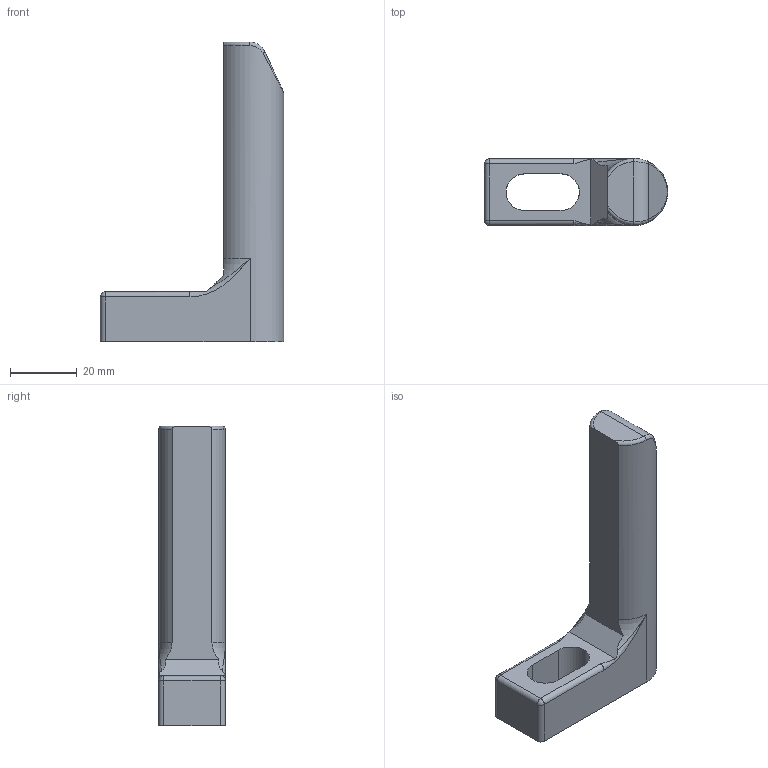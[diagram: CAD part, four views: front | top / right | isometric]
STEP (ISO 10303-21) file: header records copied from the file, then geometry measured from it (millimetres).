
FILE_DESCRIPTION(('CATIA V5 STEP Exchange'),'2;1');
FILE_NAME('C:\Users\Utente\Desktop\IO LAVORO\3D X SITO CF\X SITO\704\704-3.stp','2020-11-29T12:23:15+00:00',('none'),('none'),'CATIA Version 5 Release 20 GA (IN-10)','CATIA V5 STEP AP203','none');
FILE_SCHEMA(('CONFIG_CONTROL_DESIGN'));
Length unit declared in the file: millimetre
Products named in the file (1): 704-3
Bounding box: 55 x 20 x 90 mm (x, y, z)
Volume: 34610.4 mm3; surface area: 9055.5 mm2
Topology: 1 solids, 1 shells, 35 faces, 91 edges, 54 vertices
Faces by surface type: cylinder 12, plane 11, bspline 6, torus 4, sphere 2
Entity records: 1418 total; most frequent: CARTESIAN_POINT 648, ORIENTED_EDGE 174, DIRECTION 111, EDGE_CURVE 87, VERTEX_POINT 54, AXIS2_PLACEMENT_3D 50, EDGE_LOOP 37, ADVANCED_FACE 35
